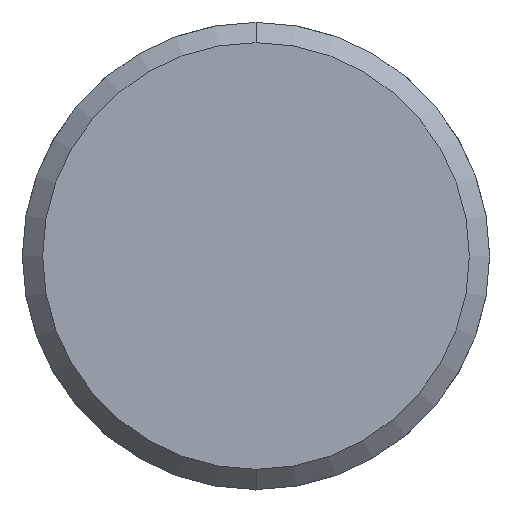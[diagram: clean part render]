
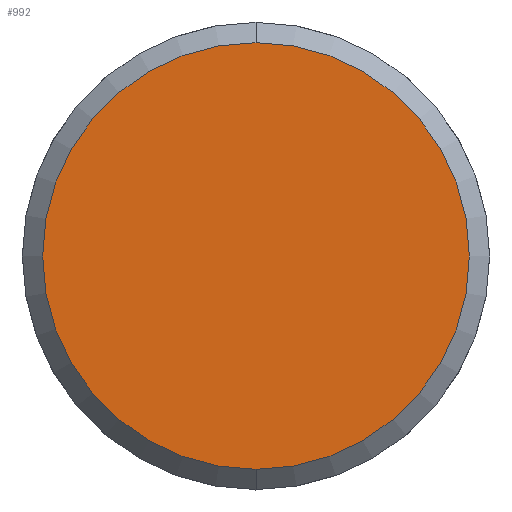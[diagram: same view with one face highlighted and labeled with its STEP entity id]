
A CAD part, front view. The second image highlights one B-rep face of the part: STEP entity #992.
In plain terms, the highlighted planar face has unit normal (0, -1, 0).
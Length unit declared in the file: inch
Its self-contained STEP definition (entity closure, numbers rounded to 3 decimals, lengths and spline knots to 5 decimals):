
#261 = EDGE_CURVE ( 'NONE', #2118, #2116, #2727, .T. ) ;
#280 = EDGE_CURVE ( 'NONE', #2116, #2118, #3432, .T. ) ;
#465 = ORIENTED_EDGE ( 'NONE', *, *, #280, .F. ) ;
#488 = ORIENTED_EDGE ( 'NONE', *, *, #261, .F. ) ;
#845 = AXIS2_PLACEMENT_3D ( 'NONE', #4362, #4363, #4364 ) ;
#992 = ADVANCED_FACE ( 'NONE', ( #3937 ), #4349, .T. ) ;
#1391 = AXIS2_PLACEMENT_3D ( 'NONE', #4755, #4754, #4669 ) ;
#1399 = AXIS2_PLACEMENT_3D ( 'NONE', #4848, #4845, #4843 ) ;
#2116 = VERTEX_POINT ( 'NONE', #4644 ) ;
#2118 = VERTEX_POINT ( 'NONE', #4646 ) ;
#2619 = EDGE_LOOP ( 'NONE', ( #488, #465 ) ) ;
#2727 = CIRCLE ( 'NONE', #1391, 0.658 ) ;
#3432 = CIRCLE ( 'NONE', #1399, 0.658 ) ;
#3937 = FACE_OUTER_BOUND ( 'NONE', #2619, .T. ) ;
#4349 = PLANE ( 'NONE',  #845 ) ;
#4362 = CARTESIAN_POINT ( 'NONE',  ( -1.45653, -0.38192, 0. ) ) ;
#4363 = DIRECTION ( 'NONE',  ( 0., -1., 0. ) ) ;
#4364 = DIRECTION ( 'NONE',  ( 0., 0., -1. ) ) ;
#4644 = CARTESIAN_POINT ( 'NONE',  ( -1.98103, -0.38192, -0.658 ) ) ;
#4646 = CARTESIAN_POINT ( 'NONE',  ( -1.98103, -0.38192, 0.658 ) ) ;
#4669 = DIRECTION ( 'NONE',  ( 0., 0., 1. ) ) ;
#4754 = DIRECTION ( 'NONE',  ( 0., 1., 0. ) ) ;
#4755 = CARTESIAN_POINT ( 'NONE',  ( -1.98103, -0.38192, 0. ) ) ;
#4843 = DIRECTION ( 'NONE',  ( 0., 0., 1. ) ) ;
#4845 = DIRECTION ( 'NONE',  ( 0., 1., 0. ) ) ;
#4848 = CARTESIAN_POINT ( 'NONE',  ( -1.98103, -0.38192, 0. ) ) ;
